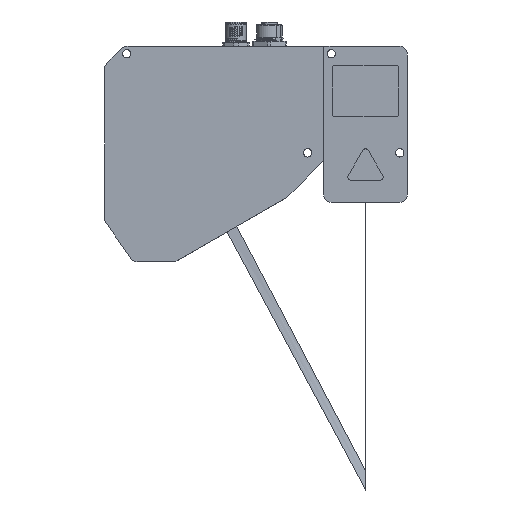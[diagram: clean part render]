
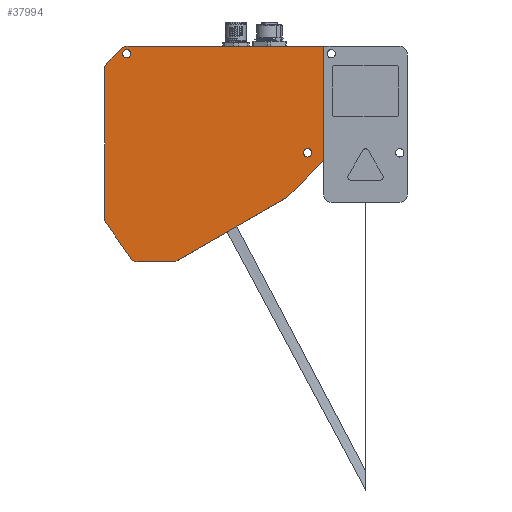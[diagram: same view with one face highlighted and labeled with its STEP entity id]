
A CAD part, front view. The second image highlights one B-rep face of the part: STEP entity #37994.
In plain terms, the highlighted planar face has unit normal (0, -1, 0).
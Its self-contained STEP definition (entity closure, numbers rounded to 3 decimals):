
#1955=FACE_BOUND('',#7981,.T.);
#1956=FACE_BOUND('',#7982,.T.);
#2841=PLANE('',#41777);
#5473=FACE_OUTER_BOUND('',#7980,.T.);
#7980=EDGE_LOOP('',(#34238,#34239,#34240,#34241,#34242,#34243,#34244,#34245,
#34246,#34247,#34248,#34249,#34250,#34251,#34252,#34253,#34254,#34255));
#7981=EDGE_LOOP('',(#34256));
#7982=EDGE_LOOP('',(#34257));
#10643=LINE('',#100312,#13433);
#10758=LINE('',#100786,#13548);
#10764=LINE('',#100798,#13554);
#10766=LINE('',#100801,#13556);
#10769=LINE('',#100807,#13559);
#10770=LINE('',#100809,#13560);
#10823=LINE('',#100985,#13613);
#10844=LINE('',#101090,#13634);
#10847=LINE('',#101096,#13637);
#10848=LINE('',#101100,#13638);
#10849=LINE('',#101104,#13639);
#10850=LINE('',#101108,#13640);
#13433=VECTOR('',#50398,10.);
#13548=VECTOR('',#50871,10.);
#13554=VECTOR('',#50879,10.);
#13556=VECTOR('',#50883,10.);
#13559=VECTOR('',#50888,10.);
#13560=VECTOR('',#50891,10.);
#13613=VECTOR('',#51090,10.);
#13634=VECTOR('',#51203,10.);
#13637=VECTOR('',#51208,10.);
#13638=VECTOR('',#51213,10.);
#13639=VECTOR('',#51216,10.);
#13640=VECTOR('',#51219,10.);
#15356=CIRCLE('',#41774,4.);
#15358=CIRCLE('',#41778,4.);
#15359=CIRCLE('',#41779,4.);
#15360=CIRCLE('',#41780,4.);
#15361=CIRCLE('',#41781,4.);
#15362=CIRCLE('',#41782,4.);
#15363=CIRCLE('',#41783,2.2);
#15364=CIRCLE('',#41784,2.2);
#18643=VERTEX_POINT('',#100305);
#18646=VERTEX_POINT('',#100310);
#18782=VERTEX_POINT('',#100782);
#18784=VERTEX_POINT('',#100785);
#18787=VERTEX_POINT('',#100792);
#18789=VERTEX_POINT('',#100796);
#18791=VERTEX_POINT('',#100805);
#18839=VERTEX_POINT('',#100981);
#18841=VERTEX_POINT('',#100984);
#18875=VERTEX_POINT('',#101080);
#18876=VERTEX_POINT('',#101081);
#18879=VERTEX_POINT('',#101089);
#18881=VERTEX_POINT('',#101095);
#18882=VERTEX_POINT('',#101098);
#18883=VERTEX_POINT('',#101101);
#18884=VERTEX_POINT('',#101103);
#18885=VERTEX_POINT('',#101105);
#18886=VERTEX_POINT('',#101107);
#18887=VERTEX_POINT('',#101110);
#18888=VERTEX_POINT('',#101112);
#23700=EDGE_CURVE('',#18643,#18646,#10643,.T.);
#23914=EDGE_CURVE('',#18782,#18784,#10758,.T.);
#23920=EDGE_CURVE('',#18787,#18789,#10764,.T.);
#23922=EDGE_CURVE('',#18784,#18789,#10766,.T.);
#23925=EDGE_CURVE('',#18782,#18791,#10769,.T.);
#23926=EDGE_CURVE('',#18646,#18787,#10770,.T.);
#24010=EDGE_CURVE('',#18841,#18839,#10823,.T.);
#24056=EDGE_CURVE('',#18875,#18876,#15356,.T.);
#24060=EDGE_CURVE('',#18879,#18876,#10844,.T.);
#24063=EDGE_CURVE('',#18875,#18881,#10847,.T.);
#24064=EDGE_CURVE('',#18841,#18881,#15358,.T.);
#24065=EDGE_CURVE('',#18882,#18839,#15359,.T.);
#24066=EDGE_CURVE('',#18882,#18643,#10848,.T.);
#24067=EDGE_CURVE('',#18883,#18791,#15360,.T.);
#24068=EDGE_CURVE('',#18883,#18884,#10849,.T.);
#24069=EDGE_CURVE('',#18885,#18884,#15361,.T.);
#24070=EDGE_CURVE('',#18885,#18886,#10850,.T.);
#24071=EDGE_CURVE('',#18879,#18886,#15362,.T.);
#24072=EDGE_CURVE('',#18887,#18887,#15363,.T.);
#24073=EDGE_CURVE('',#18888,#18888,#15364,.T.);
#34238=ORIENTED_EDGE('',*,*,#24056,.F.);
#34239=ORIENTED_EDGE('',*,*,#24063,.T.);
#34240=ORIENTED_EDGE('',*,*,#24064,.F.);
#34241=ORIENTED_EDGE('',*,*,#24010,.T.);
#34242=ORIENTED_EDGE('',*,*,#24065,.F.);
#34243=ORIENTED_EDGE('',*,*,#24066,.T.);
#34244=ORIENTED_EDGE('',*,*,#23700,.T.);
#34245=ORIENTED_EDGE('',*,*,#23926,.T.);
#34246=ORIENTED_EDGE('',*,*,#23920,.T.);
#34247=ORIENTED_EDGE('',*,*,#23922,.F.);
#34248=ORIENTED_EDGE('',*,*,#23914,.F.);
#34249=ORIENTED_EDGE('',*,*,#23925,.T.);
#34250=ORIENTED_EDGE('',*,*,#24067,.F.);
#34251=ORIENTED_EDGE('',*,*,#24068,.T.);
#34252=ORIENTED_EDGE('',*,*,#24069,.F.);
#34253=ORIENTED_EDGE('',*,*,#24070,.T.);
#34254=ORIENTED_EDGE('',*,*,#24071,.F.);
#34255=ORIENTED_EDGE('',*,*,#24060,.T.);
#34256=ORIENTED_EDGE('',*,*,#24072,.T.);
#34257=ORIENTED_EDGE('',*,*,#24073,.T.);
#37994=ADVANCED_FACE('',(#5473,#1955,#1956),#2841,.T.);
#41774=AXIS2_PLACEMENT_3D('',#101082,#51195,#51196);
#41777=AXIS2_PLACEMENT_3D('',#101094,#51206,#51207);
#41778=AXIS2_PLACEMENT_3D('',#101097,#51209,#51210);
#41779=AXIS2_PLACEMENT_3D('',#101099,#51211,#51212);
#41780=AXIS2_PLACEMENT_3D('',#101102,#51214,#51215);
#41781=AXIS2_PLACEMENT_3D('',#101106,#51217,#51218);
#41782=AXIS2_PLACEMENT_3D('',#101109,#51220,#51221);
#41783=AXIS2_PLACEMENT_3D('',#101111,#51222,#51223);
#41784=AXIS2_PLACEMENT_3D('',#101113,#51224,#51225);
#50398=DIRECTION('',(0.,0.,1.));
#50871=DIRECTION('',(0.,0.,1.));
#50879=DIRECTION('',(0.,0.,1.));
#50883=DIRECTION('',(1.,0.,0.));
#50888=DIRECTION('',(-1.,0.,0.));
#50891=DIRECTION('',(-1.,0.,0.));
#51090=DIRECTION('',(0.866,0.,0.5));
#51195=DIRECTION('center_axis',(0.,1.,0.));
#51196=DIRECTION('ref_axis',(-0.462,0.,-0.887));
#51203=DIRECTION('',(0.574,0.,-0.819));
#51206=DIRECTION('center_axis',(0.,-1.,0.));
#51207=DIRECTION('ref_axis',(0.,0.,-1.));
#51208=DIRECTION('',(1.,0.,0.));
#51209=DIRECTION('center_axis',(0.,1.,0.));
#51210=DIRECTION('ref_axis',(0.259,0.,-0.966));
#51211=DIRECTION('center_axis',(0.,1.,0.));
#51212=DIRECTION('ref_axis',(0.609,0.,-0.793));
#51213=DIRECTION('',(0.707,0.,0.707));
#51214=DIRECTION('center_axis',(0.,1.,0.));
#51215=DIRECTION('ref_axis',(-0.383,0.,0.924));
#51216=DIRECTION('',(-0.707,0.,-0.707));
#51217=DIRECTION('center_axis',(0.,1.,0.));
#51218=DIRECTION('ref_axis',(-0.924,0.,0.383));
#51219=DIRECTION('',(0.,0.,-1.));
#51220=DIRECTION('center_axis',(0.,1.,0.));
#51221=DIRECTION('ref_axis',(-0.954,0.,-0.301));
#51222=DIRECTION('center_axis',(0.,1.,0.));
#51223=DIRECTION('ref_axis',(-1.,0.,0.));
#51224=DIRECTION('center_axis',(0.,1.,0.));
#51225=DIRECTION('ref_axis',(-1.,0.,0.));
#100305=CARTESIAN_POINT('',(25.,-30.,0.));
#100310=CARTESIAN_POINT('',(25.,-30.,60.));
#100312=CARTESIAN_POINT('',(25.,-30.,0.));
#100782=CARTESIAN_POINT('',(-77.,-30.,60.));
#100785=CARTESIAN_POINT('',(-77.,-30.,60.1));
#100786=CARTESIAN_POINT('',(-77.,-30.,60.));
#100792=CARTESIAN_POINT('',(-69.,-30.,60.));
#100796=CARTESIAN_POINT('',(-69.,-30.,60.1));
#100798=CARTESIAN_POINT('',(-69.,-30.,60.));
#100801=CARTESIAN_POINT('',(-77.,-30.,60.1));
#100805=CARTESIAN_POINT('',(-78.343,-30.,60.));
#100807=CARTESIAN_POINT('',(25.,-30.,60.));
#100809=CARTESIAN_POINT('',(25.,-30.,60.));
#100981=CARTESIAN_POINT('',(5.42,-30.,-19.388));
#100984=CARTESIAN_POINT('',(-51.87,-30.,-52.464));
#100985=CARTESIAN_POINT('',(-52.799,-30.,-53.));
#101080=CARTESIAN_POINT('',(-72.918,-30.,-53.));
#101081=CARTESIAN_POINT('',(-76.194,-30.,-51.294));
#101082=CARTESIAN_POINT('Origin',(-72.918,-30.,-49.));
#101089=CARTESIAN_POINT('',(-89.277,-30.,-32.611));
#101090=CARTESIAN_POINT('',(-90.,-30.,-31.578));
#101094=CARTESIAN_POINT('Origin',(-36.348,-30.,11.501));
#101095=CARTESIAN_POINT('',(-53.87,-30.,-53.));
#101096=CARTESIAN_POINT('',(-75.,-30.,-53.));
#101097=CARTESIAN_POINT('Origin',(-53.87,-30.,-49.));
#101098=CARTESIAN_POINT('',(6.248,-30.,-18.752));
#101099=CARTESIAN_POINT('Origin',(3.42,-30.,-15.924));
#101100=CARTESIAN_POINT('',(5.876,-30.,-19.124));
#101101=CARTESIAN_POINT('',(-81.172,-30.,58.828));
#101102=CARTESIAN_POINT('Origin',(-78.343,-30.,56.));
#101103=CARTESIAN_POINT('',(-88.828,-30.,51.172));
#101104=CARTESIAN_POINT('',(-80.,-30.,60.));
#101105=CARTESIAN_POINT('',(-90.,-30.,48.343));
#101106=CARTESIAN_POINT('Origin',(-86.,-30.,48.343));
#101107=CARTESIAN_POINT('',(-90.,-30.,-30.317));
#101108=CARTESIAN_POINT('',(-90.,-30.,50.));
#101109=CARTESIAN_POINT('Origin',(-86.,-30.,-30.317));
#101110=CARTESIAN_POINT('',(-76.185,-30.,56.1));
#101111=CARTESIAN_POINT('Origin',(-78.385,-30.,56.1));
#101112=CARTESIAN_POINT('',(18.815,-30.,4.1));
#101113=CARTESIAN_POINT('Origin',(16.615,-30.,4.1));
